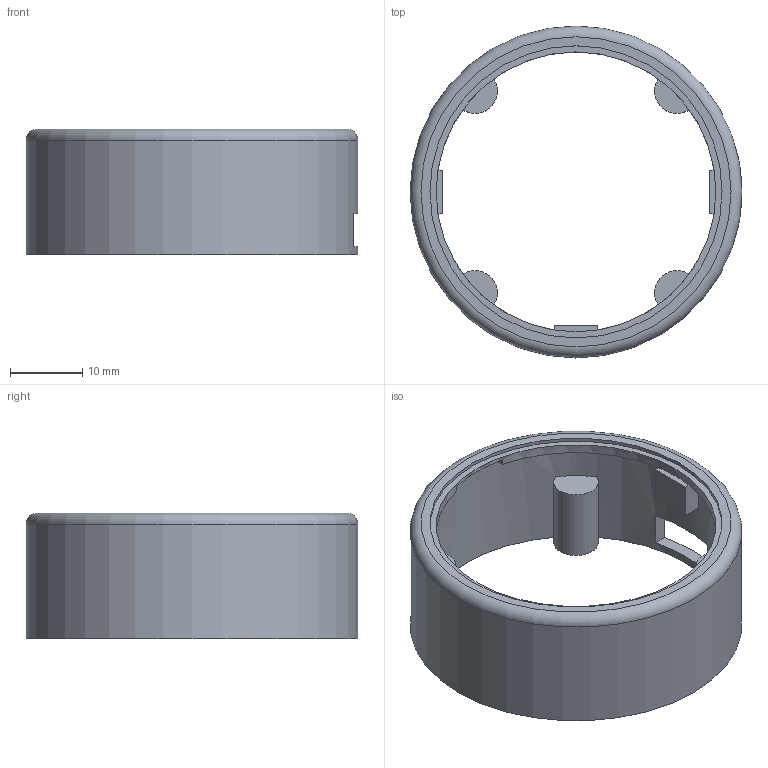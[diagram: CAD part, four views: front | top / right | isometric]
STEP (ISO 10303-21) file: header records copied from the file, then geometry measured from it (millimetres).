
FILE_DESCRIPTION(('Open CASCADE Model'),'2;1');
FILE_NAME('Open CASCADE Shape Model','2026-08-12T19:21:45',('Author'),( 'Open CASCADE'),'Open CASCADE STEP processor 7.9','Open CASCADE 7.9' ,'Unknown');
FILE_SCHEMA(('AUTOMOTIVE_DESIGN { 1 0 10303 214 1 1 1 1 }'));
Length unit declared in the file: millimetre
Products named in the file (1): Open CASCADE STEP translator 7.9 1
Bounding box: 46 x 46 x 17.4 mm (x, y, z)
Volume: 5374.8 mm3; surface area: 6447.3 mm2
Topology: 1 solids, 1 shells, 50 faces, 134 edges, 89 vertices
Faces by surface type: plane 37, cylinder 12, torus 1
Full cylindrical faces by diameter (mm): 3.2 x4, 38.8 x1, 40.5 x1, 42.6 x1, 46 x1
Entity records: 3382 total; most frequent: CARTESIAN_POINT 830, DIRECTION 452, ORIENTED_EDGE 268, PCURVE 268, DEFINITIONAL_REPRESENTATION 268, LINE 220, VECTOR 220, EDGE_CURVE 134
